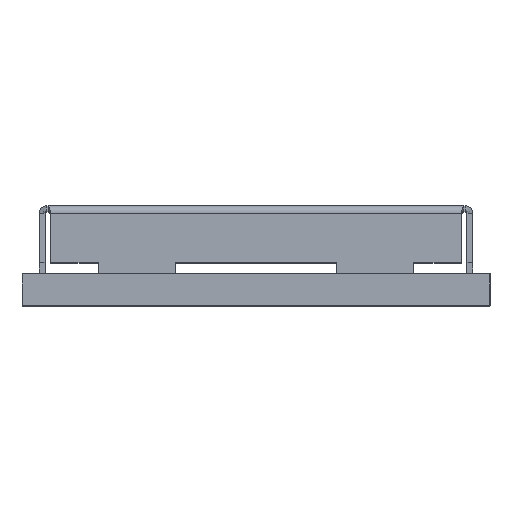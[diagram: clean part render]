
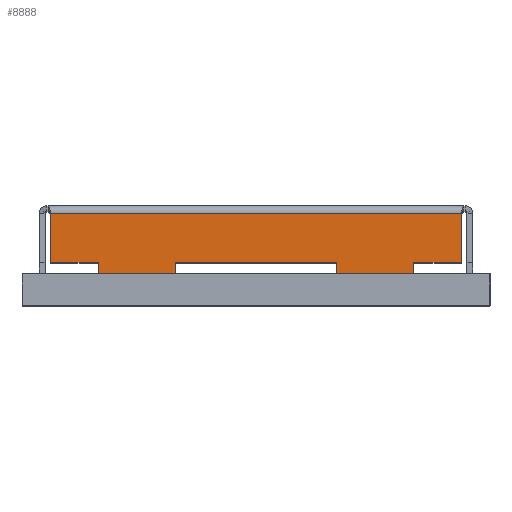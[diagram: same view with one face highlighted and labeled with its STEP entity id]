
A CAD part, top view. The second image highlights one B-rep face of the part: STEP entity #8888.
In plain terms, the highlighted planar face has unit normal (0, 0, 1).
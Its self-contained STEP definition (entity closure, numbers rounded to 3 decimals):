
#267 = ORIENTED_EDGE ( 'NONE', *, *, #7528, .T. ) ;
#589 = PLANE ( 'NONE',  #10155 ) ;
#730 = VECTOR ( 'NONE', #3656, 1000. ) ;
#817 = LINE ( 'NONE', #2449, #10042 ) ;
#824 = EDGE_CURVE ( 'NONE', #3231, #1812, #3679, .T. ) ;
#888 = ORIENTED_EDGE ( 'NONE', *, *, #824, .F. ) ;
#942 = CARTESIAN_POINT ( 'NONE',  ( 4.109, 1.12, 7.55 ) ) ;
#1108 = LINE ( 'NONE', #9823, #4668 ) ;
#1247 = VECTOR ( 'NONE', #10194, 1000. ) ;
#1330 = ORIENTED_EDGE ( 'NONE', *, *, #3157, .F. ) ;
#1539 = CARTESIAN_POINT ( 'NONE',  ( -2.109, 1.12, 7.55 ) ) ;
#1812 = VERTEX_POINT ( 'NONE', #942 ) ;
#1905 = VERTEX_POINT ( 'NONE', #5485 ) ;
#2044 = EDGE_CURVE ( 'NONE', #10931, #5246, #817, .T. ) ;
#2174 = LINE ( 'NONE', #5487, #8214 ) ;
#2227 = CARTESIAN_POINT ( 'NONE',  ( -5.359, 2.4, 7.55 ) ) ;
#2449 = CARTESIAN_POINT ( 'NONE',  ( -5.65, 0.82, 7.55 ) ) ;
#2599 = DIRECTION ( 'NONE',  ( -1., 0., 0. ) ) ;
#2607 = DIRECTION ( 'NONE',  ( 0., 1., 0. ) ) ;
#2666 = CARTESIAN_POINT ( 'NONE',  ( -2.109, 0.82, 7.55 ) ) ;
#2695 = VECTOR ( 'NONE', #6104, 1000. ) ;
#2837 = CARTESIAN_POINT ( 'NONE',  ( 5.359, 1.12, 7.55 ) ) ;
#3048 = EDGE_CURVE ( 'NONE', #1905, #8840, #3291, .T. ) ;
#3135 = VERTEX_POINT ( 'NONE', #7792 ) ;
#3157 = EDGE_CURVE ( 'NONE', #8831, #5246, #8582, .T. ) ;
#3231 = VERTEX_POINT ( 'NONE', #5093 ) ;
#3281 = VECTOR ( 'NONE', #2599, 1000. ) ;
#3291 = LINE ( 'NONE', #2227, #10980 ) ;
#3295 = ORIENTED_EDGE ( 'NONE', *, *, #8937, .T. ) ;
#3324 = VECTOR ( 'NONE', #2607, 1000. ) ;
#3363 = ORIENTED_EDGE ( 'NONE', *, *, #10546, .F. ) ;
#3375 = VERTEX_POINT ( 'NONE', #7172 ) ;
#3495 = LINE ( 'NONE', #5191, #3281 ) ;
#3656 = DIRECTION ( 'NONE',  ( 0., 1., 0. ) ) ;
#3679 = LINE ( 'NONE', #2837, #6245 ) ;
#3688 = DIRECTION ( 'NONE',  ( -1., 0., 0. ) ) ;
#4010 = EDGE_CURVE ( 'NONE', #8840, #3135, #9338, .T. ) ;
#4013 = EDGE_LOOP ( 'NONE', ( #10507, #4130, #3363, #9038, #1330, #9665, #10825, #267, #6831, #888, #3295, #7191 ) ) ;
#4020 = CARTESIAN_POINT ( 'NONE',  ( -5.65, 24.06, 7.55 ) ) ;
#4027 = DIRECTION ( 'NONE',  ( -1., 0., 0. ) ) ;
#4130 = ORIENTED_EDGE ( 'NONE', *, *, #6483, .F. ) ;
#4189 = EDGE_CURVE ( 'NONE', #4382, #8831, #1108, .T. ) ;
#4198 = VECTOR ( 'NONE', #4802, 1000. ) ;
#4305 = CARTESIAN_POINT ( 'NONE',  ( 5.359, 24.06, 7.55 ) ) ;
#4382 = VERTEX_POINT ( 'NONE', #7702 ) ;
#4668 = VECTOR ( 'NONE', #3688, 1000. ) ;
#4802 = DIRECTION ( 'NONE',  ( 1., 0., 0. ) ) ;
#4925 = LINE ( 'NONE', #10048, #6037 ) ;
#4981 = CARTESIAN_POINT ( 'NONE',  ( -5.359, 2.4, 7.55 ) ) ;
#5093 = CARTESIAN_POINT ( 'NONE',  ( 5.359, 1.12, 7.55 ) ) ;
#5139 = EDGE_CURVE ( 'NONE', #11006, #4382, #4925, .T. ) ;
#5191 = CARTESIAN_POINT ( 'NONE',  ( -5.359, 1.12, 7.55 ) ) ;
#5202 = DIRECTION ( 'NONE',  ( 1., 0., 0. ) ) ;
#5246 = VERTEX_POINT ( 'NONE', #2666 ) ;
#5253 = LINE ( 'NONE', #4305, #3324 ) ;
#5485 = CARTESIAN_POINT ( 'NONE',  ( 5.359, 2.4, 7.55 ) ) ;
#5487 = CARTESIAN_POINT ( 'NONE',  ( 4.109, 1.12, 7.55 ) ) ;
#5610 = DIRECTION ( 'NONE',  ( 0., -1., 0. ) ) ;
#5794 = VERTEX_POINT ( 'NONE', #11028 ) ;
#5922 = EDGE_CURVE ( 'NONE', #1812, #5794, #2174, .T. ) ;
#6037 = VECTOR ( 'NONE', #6612, 1000. ) ;
#6104 = DIRECTION ( 'NONE',  ( 0., -1., 0. ) ) ;
#6241 = CARTESIAN_POINT ( 'NONE',  ( -4.109, 0.82, 7.55 ) ) ;
#6245 = VECTOR ( 'NONE', #8857, 1000. ) ;
#6360 = LINE ( 'NONE', #8043, #730 ) ;
#6483 = EDGE_CURVE ( 'NONE', #3375, #3135, #3495, .T. ) ;
#6612 = DIRECTION ( 'NONE',  ( 0., 1., 0. ) ) ;
#6831 = ORIENTED_EDGE ( 'NONE', *, *, #5922, .F. ) ;
#7172 = CARTESIAN_POINT ( 'NONE',  ( -4.109, 1.12, 7.55 ) ) ;
#7191 = ORIENTED_EDGE ( 'NONE', *, *, #3048, .T. ) ;
#7279 = CARTESIAN_POINT ( 'NONE',  ( -5.65, 0.82, 7.55 ) ) ;
#7453 = DIRECTION ( 'NONE',  ( 0., 0., -1. ) ) ;
#7508 = DIRECTION ( 'NONE',  ( -1., 0., 0. ) ) ;
#7528 = EDGE_CURVE ( 'NONE', #11006, #5794, #10665, .T. ) ;
#7702 = CARTESIAN_POINT ( 'NONE',  ( 2.109, 1.12, 7.55 ) ) ;
#7737 = CARTESIAN_POINT ( 'NONE',  ( -2.109, 1.12, 7.55 ) ) ;
#7792 = CARTESIAN_POINT ( 'NONE',  ( -5.359, 1.12, 7.55 ) ) ;
#7915 = CARTESIAN_POINT ( 'NONE',  ( -5.359, 24.06, 7.55 ) ) ;
#8043 = CARTESIAN_POINT ( 'NONE',  ( -4.109, 1.12, 7.55 ) ) ;
#8214 = VECTOR ( 'NONE', #5610, 1000. ) ;
#8582 = LINE ( 'NONE', #7737, #2695 ) ;
#8831 = VERTEX_POINT ( 'NONE', #1539 ) ;
#8840 = VERTEX_POINT ( 'NONE', #4981 ) ;
#8857 = DIRECTION ( 'NONE',  ( -1., 0., 0. ) ) ;
#8888 = ADVANCED_FACE ( 'NONE', ( #9129 ), #589, .F. ) ;
#8937 = EDGE_CURVE ( 'NONE', #3231, #1905, #5253, .T. ) ;
#9038 = ORIENTED_EDGE ( 'NONE', *, *, #2044, .T. ) ;
#9129 = FACE_OUTER_BOUND ( 'NONE', #4013, .T. ) ;
#9338 = LINE ( 'NONE', #7915, #1247 ) ;
#9665 = ORIENTED_EDGE ( 'NONE', *, *, #4189, .F. ) ;
#9823 = CARTESIAN_POINT ( 'NONE',  ( -2.109, 1.12, 7.55 ) ) ;
#9839 = CARTESIAN_POINT ( 'NONE',  ( 2.109, 0.82, 7.55 ) ) ;
#10042 = VECTOR ( 'NONE', #5202, 1000. ) ;
#10048 = CARTESIAN_POINT ( 'NONE',  ( 2.109, 1.12, 7.55 ) ) ;
#10155 = AXIS2_PLACEMENT_3D ( 'NONE', #4020, #7453, #7508 ) ;
#10194 = DIRECTION ( 'NONE',  ( 0., -1., 0. ) ) ;
#10507 = ORIENTED_EDGE ( 'NONE', *, *, #4010, .T. ) ;
#10546 = EDGE_CURVE ( 'NONE', #10931, #3375, #6360, .T. ) ;
#10665 = LINE ( 'NONE', #7279, #4198 ) ;
#10825 = ORIENTED_EDGE ( 'NONE', *, *, #5139, .F. ) ;
#10931 = VERTEX_POINT ( 'NONE', #6241 ) ;
#10980 = VECTOR ( 'NONE', #4027, 1000. ) ;
#11006 = VERTEX_POINT ( 'NONE', #9839 ) ;
#11028 = CARTESIAN_POINT ( 'NONE',  ( 4.109, 0.82, 7.55 ) ) ;
